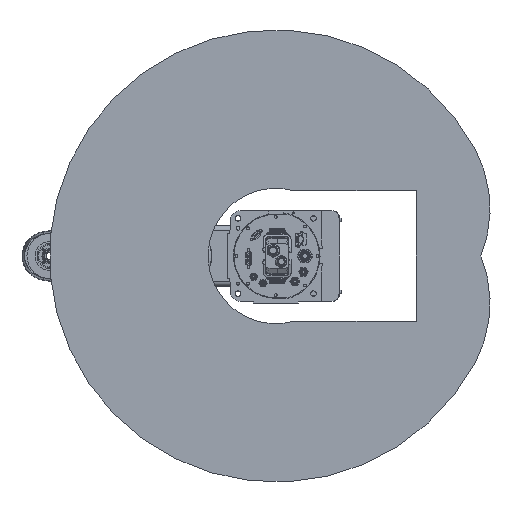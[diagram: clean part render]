
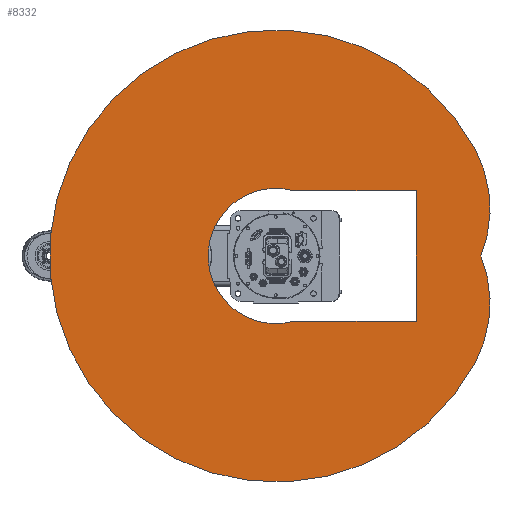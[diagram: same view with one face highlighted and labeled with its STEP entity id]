
A CAD part, front view. The second image highlights one B-rep face of the part: STEP entity #8332.
In plain terms, the highlighted planar face has unit normal (0, -1, 0).
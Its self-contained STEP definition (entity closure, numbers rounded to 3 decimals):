
#8332 = ADVANCED_FACE( '', ( #18396, #18397 ), #18398, .F. );
#18396 = FACE_OUTER_BOUND( '', #30070, .T. );
#18397 = FACE_BOUND( '', #30071, .T. );
#18398 = PLANE( '', #30072 );
#30070 = EDGE_LOOP( '', ( #53071, #53072, #53073 ) );
#30071 = EDGE_LOOP( '', ( #53074, #53075, #53076, #53077 ) );
#30072 = AXIS2_PLACEMENT_3D( '', #53078, #53079, #53080 );
#53071 = ORIENTED_EDGE( '', *, *, #62328, .F. );
#53072 = ORIENTED_EDGE( '', *, *, #62292, .F. );
#53073 = ORIENTED_EDGE( '', *, *, #63481, .F. );
#53074 = ORIENTED_EDGE( '', *, *, #63476, .T. );
#53075 = ORIENTED_EDGE( '', *, *, #67599, .T. );
#53076 = ORIENTED_EDGE( '', *, *, #68684, .T. );
#53077 = ORIENTED_EDGE( '', *, *, #65587, .T. );
#53078 = CARTESIAN_POINT( '', ( 46.947, 0., 88.295 ) );
#53079 = DIRECTION( '', ( 0., 1., 0. ) );
#53080 = DIRECTION( '', ( 0., 0., 1. ) );
#62292 = EDGE_CURVE( '', #74265, #74266, #74267, .T. );
#62328 = EDGE_CURVE( '', #74266, #74326, #74327, .T. );
#63476 = EDGE_CURVE( '', #76213, #76211, #76214, .T. );
#63481 = EDGE_CURVE( '', #74326, #74265, #76220, .T. );
#65587 = EDGE_CURVE( '', #79427, #76213, #79428, .T. );
#67599 = EDGE_CURVE( '', #76211, #82190, #82191, .T. );
#68684 = EDGE_CURVE( '', #82190, #79427, #83544, .T. );
#74265 = VERTEX_POINT( '', #91821 );
#74266 = VERTEX_POINT( '', #91822 );
#74267 = CIRCLE( '', #91823, 250. );
#74326 = VERTEX_POINT( '', #91911 );
#74327 = CIRCLE( '', #91912, 250. );
#76211 = VERTEX_POINT( '', #95211 );
#76213 = VERTEX_POINT( '', #95214 );
#76214 = LINE( '', #95215, #95216 );
#76220 = CIRCLE( '', #95223, 450. );
#79427 = VERTEX_POINT( '', #101090 );
#79428 = CIRCLE( '', #101091, 134.76 );
#82190 = VERTEX_POINT( '', #105926 );
#82191 = LINE( '', #105927, #105928 );
#83544 = LINE( '', #108473, #108474 );
#91821 = CARTESIAN_POINT( '', ( -211.262, 0., 397.326 ) );
#91822 = CARTESIAN_POINT( '', ( 0., 0., 408.287 ) );
#91823 = AXIS2_PLACEMENT_3D( '', #114180, #114181, #114182 );
#91911 = CARTESIAN_POINT( '', ( 211.262, 0., 397.326 ) );
#91912 = AXIS2_PLACEMENT_3D( '', #114222, #114223, #114224 );
#95211 = CARTESIAN_POINT( '', ( -130., 0., 280. ) );
#95214 = CARTESIAN_POINT( '', ( -130., 0., 35.5 ) );
#95215 = CARTESIAN_POINT( '', ( -130., 0., 0. ) );
#95216 = VECTOR( '', #115682, 1000. );
#95223 = AXIS2_PLACEMENT_3D( '', #115687, #115688, #115689 );
#101090 = CARTESIAN_POINT( '', ( 130., 0., 35.5 ) );
#101091 = AXIS2_PLACEMENT_3D( '', #118162, #118163, #118164 );
#105926 = CARTESIAN_POINT( '', ( 130., 0., 280. ) );
#105927 = CARTESIAN_POINT( '', ( -130., 0., 280. ) );
#105928 = VECTOR( '', #120369, 1000. );
#108473 = CARTESIAN_POINT( '', ( 130., 0., 280. ) );
#108474 = VECTOR( '', #121382, 1000. );
#114180 = CARTESIAN_POINT( '', ( -93.894, 0., 176.59 ) );
#114181 = DIRECTION( '', ( 0., 1., 0. ) );
#114182 = DIRECTION( '', ( 1., 0., 0. ) );
#114222 = CARTESIAN_POINT( '', ( 93.894, 0., 176.59 ) );
#114223 = DIRECTION( '', ( 0., 1., 0. ) );
#114224 = DIRECTION( '', ( 1., 0., 0. ) );
#115682 = DIRECTION( '', ( 0., 0., 1. ) );
#115687 = CARTESIAN_POINT( '', ( 0., 0., 0. ) );
#115688 = DIRECTION( '', ( 0., 1., 0. ) );
#115689 = DIRECTION( '', ( 1., 0., 0. ) );
#118162 = CARTESIAN_POINT( '', ( 0., 0., 0. ) );
#118163 = DIRECTION( '', ( 0., 1., 0. ) );
#118164 = DIRECTION( '', ( 1., 0., 0. ) );
#120369 = DIRECTION( '', ( 1., 0., 0. ) );
#121382 = DIRECTION( '', ( 0., 0., -1. ) );
